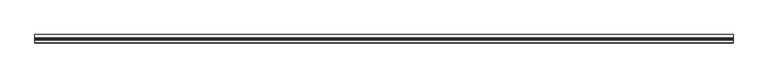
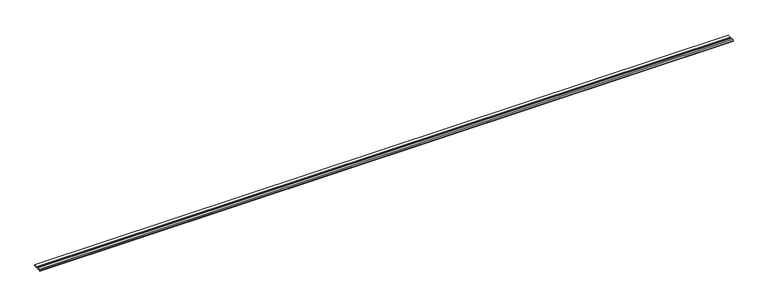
"""IFC4 building model written with IfcOpenShell, lengths in millimetres: slab geometry, ROSA GRES_G49 : Pieza G49_Aqua_Plomo_Anti-Slip."""

from ifc_helpers import new_model, si_unit, point, frame, frame_2d, origin, place, context, project, spatial, polyline, circle_curve, trimmed, segment, composite_curve, outline, extrude, source, transform, mapped, element, save


def slab_f1eb9f66(model_context):
    return source(origin(), model_context, "Body", "SweptSolid", [
        extrude(outline(composite_curve([segment(polyline([(0.4959854, 174.3946403), (-0.6795727, 188.8372115)]), True, "CONTINUOUS"), segment(trimmed(circle_curve(frame_2d((9.287465, 189.648482)), 10.0), [point((-0.6795727, 188.8372115))], [point((8.4761969, 199.6155199))], False, "CARTESIAN"), True, "CONTINUOUS"), segment(polyline([(8.4761969, 199.6155199), (34.9297931, 201.7687131), (38.3959439, 195.0159662), (41.0138307, 190.7196924), (42.1786827, 188.9557911)]), True, "CONTINUOUS"), segment(trimmed(circle_curve(frame_2d((44.6810926, 190.6083422)), 2.9988298), [point((42.1786827, 188.9557911))], [point((44.9243788, 187.6193972))], True, "CARTESIAN"), True, "CONTINUOUS"), segment(polyline([(44.9243788, 187.6193972), (64.4101321, 189.205447)]), True, "CONTINUOUS"), segment(trimmed(circle_curve(frame_2d((63.9188624, 195.2410459)), 6.0555595), [point((64.4101321, 189.205447))], [point((69.5852402, 193.1051707))], True, "CARTESIAN"), True, "CONTINUOUS"), segment(polyline([(69.5852402, 193.1051707), (69.9836117, 193.8870189), (117.9849268, 197.7941027), (119.1037338, 184.0487594), (38.2820268, 177.4702483)]), True, "CONTINUOUS"), segment(trimmed(circle_curve(frame_2d((27.0041663, 174.9936892)), 11.5465789), [point((38.2820268, 177.4702483))], [point((15.4742511, 175.6138015))], True, "CARTESIAN"), True, "CONTINUOUS"), segment(polyline([(15.4742511, 175.6138015), (0.4959854, 174.3946403)]), True, "CONTINUOUS")], self_intersect=False)), frame((0.0, 0.0, 0.0), z_axis=(1.0, 0.0, 0.0), x_axis=(0.0, 1.0, 0.0)), (0.0, 0.0, 1.0), 10002.75),
    ])


if __name__ == "__main__":
    model = new_model("IFC4")
    model_context = context("Model", 3, world=origin())
    ifc_project = project(units=[si_unit("LENGTHUNIT", "METRE", prefix="MILLI")], contexts=[model_context])
    site = spatial("IfcSite", under=ifc_project)
    building = spatial("IfcBuilding", under=site)
    placement = place(None, origin())
    slab_shape = slab_f1eb9f66(model_context)
    element("IfcSlab", 1, ObjectType="ROSA GRES_G49 : Pieza G49_Aqua_Plomo_Anti-Slip", at=placement, inside=building, context=model_context, shape_type="MappedRepresentation", body=[
        mapped(slab_shape, transform((0.0, 0.0, 0.0), x_axis=(1.0, 0.0, 0.0), y_axis=(0.0, 1.0, 0.0), z_axis=(0.0, 0.0, 1.0))),
    ])
    save(model, "model.ifc")
